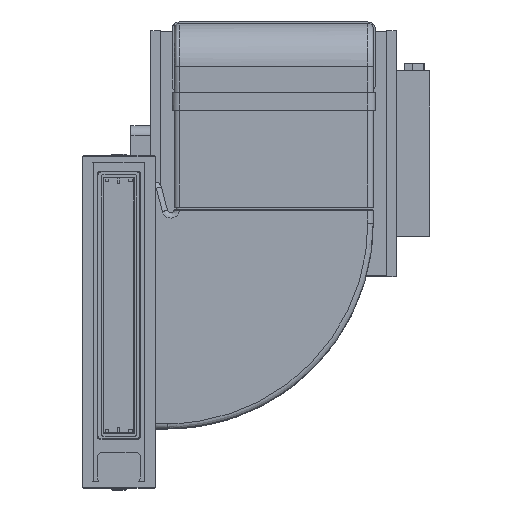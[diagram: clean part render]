
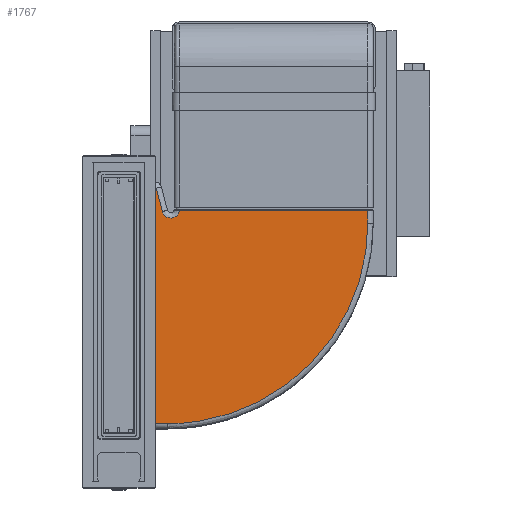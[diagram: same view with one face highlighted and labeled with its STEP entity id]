
A CAD part, top view. The second image highlights one B-rep face of the part: STEP entity #1767.
In plain terms, the highlighted planar face has unit normal (0, 0, 1).
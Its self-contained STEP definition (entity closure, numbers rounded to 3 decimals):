
#1767=ADVANCED_FACE('',(#3361),#25106,.T.);
#3361=FACE_OUTER_BOUND('',#5161,.T.);
#5161=EDGE_LOOP('',(#12777,#12778,#12779,#12780,#12781,#12782,#12783,#12784));
#12777=ORIENTED_EDGE('',*,*,#17286,.F.);
#12778=ORIENTED_EDGE('',*,*,#17215,.F.);
#12779=ORIENTED_EDGE('',*,*,#17223,.F.);
#12780=ORIENTED_EDGE('',*,*,#17209,.T.);
#12781=ORIENTED_EDGE('',*,*,#17246,.F.);
#12782=ORIENTED_EDGE('',*,*,#17252,.F.);
#12783=ORIENTED_EDGE('',*,*,#17284,.F.);
#12784=ORIENTED_EDGE('',*,*,#17283,.F.);
#17209=EDGE_CURVE('',#24024,#24023,#21467,.T.);
#17215=EDGE_CURVE('',#24026,#24025,#21471,.T.);
#17223=EDGE_CURVE('',#24024,#24026,#18789,.T.);
#17246=EDGE_CURVE('',#24040,#24023,#21487,.T.);
#17252=EDGE_CURVE('',#24042,#24040,#18802,.T.);
#17283=EDGE_CURVE('',#24064,#24065,#21509,.T.);
#17284=EDGE_CURVE('',#24065,#24042,#21510,.T.);
#17286=EDGE_CURVE('',#24025,#24064,#18815,.T.);
#18789=(
BOUNDED_CURVE()
B_SPLINE_CURVE(2,(#60928,#60929,#60930,#60931,#60932),.UNSPECIFIED.,.F.,
 .F.)
B_SPLINE_CURVE_WITH_KNOTS((3,2,3),(0.,1.975,3.95),
 .UNSPECIFIED.)
CURVE()
GEOMETRIC_REPRESENTATION_ITEM()
RATIONAL_B_SPLINE_CURVE((1.,0.881,1.,0.881,1.))
REPRESENTATION_ITEM('')
);
#18802=(
BOUNDED_CURVE()
B_SPLINE_CURVE(2,(#61001,#61002,#61003),.UNSPECIFIED.,.F.,.F.)
B_SPLINE_CURVE_WITH_KNOTS((3,3),(0.,474.38),.UNSPECIFIED.)
CURVE()
GEOMETRIC_REPRESENTATION_ITEM()
RATIONAL_B_SPLINE_CURVE((1.,0.707,1.))
REPRESENTATION_ITEM('')
);
#18815=(
BOUNDED_CURVE()
B_SPLINE_CURVE(2,(#61088,#61089,#61090,#61091,#61092),.UNSPECIFIED.,.F.,
 .F.)
B_SPLINE_CURVE_WITH_KNOTS((3,2,3),(-35.742,-17.871,
0.),.UNSPECIFIED.)
CURVE()
GEOMETRIC_REPRESENTATION_ITEM()
RATIONAL_B_SPLINE_CURVE((1.,0.773,1.,0.773,1.))
REPRESENTATION_ITEM('')
);
#21467=B_SPLINE_CURVE_WITH_KNOTS('',1,(#60855,#60856),.UNSPECIFIED.,.F.,
 .F.,(2,2),(-355.672,0.),.UNSPECIFIED.);
#21471=B_SPLINE_CURVE_WITH_KNOTS('',1,(#60907,#60908),.UNSPECIFIED.,.F.,
 .F.,(2,2),(0.,36.513),.UNSPECIFIED.);
#21487=B_SPLINE_CURVE_WITH_KNOTS('',1,(#60986,#60987),.UNSPECIFIED.,.F.,
 .F.,(2,2),(0.,19.996),.UNSPECIFIED.);
#21509=B_SPLINE_CURVE_WITH_KNOTS('',1,(#61079,#61080),.UNSPECIFIED.,.F.,
 .F.,(2,2),(-283.931,0.),.UNSPECIFIED.);
#21510=B_SPLINE_CURVE_WITH_KNOTS('',1,(#61081,#61082),.UNSPECIFIED.,.F.,
 .F.,(2,2),(0.,19.023),.UNSPECIFIED.);
#24023=VERTEX_POINT('',#60740);
#24024=VERTEX_POINT('',#60741);
#24025=VERTEX_POINT('',#60742);
#24026=VERTEX_POINT('',#60743);
#24040=VERTEX_POINT('',#60757);
#24042=VERTEX_POINT('',#60759);
#24064=VERTEX_POINT('',#60781);
#24065=VERTEX_POINT('',#60782);
#25106=PLANE('',#26692);
#26692=AXIS2_PLACEMENT_3D('',#59777,#27601,$);
#27601=DIRECTION('',(0.,0.,1.));
#59777=CARTESIAN_POINT('',(-212.255,-443.717,956.));
#60740=CARTESIAN_POINT('',(-179.996,-408.023,956.));
#60741=CARTESIAN_POINT('',(-179.996,-52.351,956.));
#60742=CARTESIAN_POINT('',(-167.378,-88.674,956.));
#60743=CARTESIAN_POINT('',(-176.828,-53.406,956.));
#60757=CARTESIAN_POINT('',(-160.,-408.023,956.));
#60759=CARTESIAN_POINT('',(142.,-106.023,956.));
#60781=CARTESIAN_POINT('',(-141.931,-87.,956.));
#60782=CARTESIAN_POINT('',(142.,-87.,956.));
#60855=CARTESIAN_POINT('',(-179.996,-52.351,956.));
#60856=CARTESIAN_POINT('',(-179.996,-408.023,956.));
#60907=CARTESIAN_POINT('',(-176.828,-53.406,956.));
#60908=CARTESIAN_POINT('',(-167.378,-88.674,956.));
#60928=CARTESIAN_POINT('',(-179.996,-52.351,956.));
#60929=CARTESIAN_POINT('',(-179.149,-51.686,956.));
#60930=CARTESIAN_POINT('',(-178.128,-52.026,956.));
#60931=CARTESIAN_POINT('',(-177.107,-52.366,956.));
#60932=CARTESIAN_POINT('',(-176.828,-53.406,956.));
#60986=CARTESIAN_POINT('',(-160.,-408.023,956.));
#60987=CARTESIAN_POINT('',(-179.996,-408.023,956.));
#61001=CARTESIAN_POINT('',(142.,-106.023,956.));
#61002=CARTESIAN_POINT('',(142.,-408.023,956.));
#61003=CARTESIAN_POINT('',(-160.,-408.023,956.));
#61079=CARTESIAN_POINT('',(-141.931,-87.,956.));
#61080=CARTESIAN_POINT('',(142.,-87.,956.));
#61081=CARTESIAN_POINT('',(142.,-87.,956.));
#61082=CARTESIAN_POINT('',(142.,-106.023,956.));
#61088=CARTESIAN_POINT('',(-167.378,-88.674,956.));
#61089=CARTESIAN_POINT('',(-164.616,-98.982,956.));
#61090=CARTESIAN_POINT('',(-153.968,-98.281,956.));
#61091=CARTESIAN_POINT('',(-143.319,-97.581,956.));
#61092=CARTESIAN_POINT('',(-141.931,-87.,956.));
